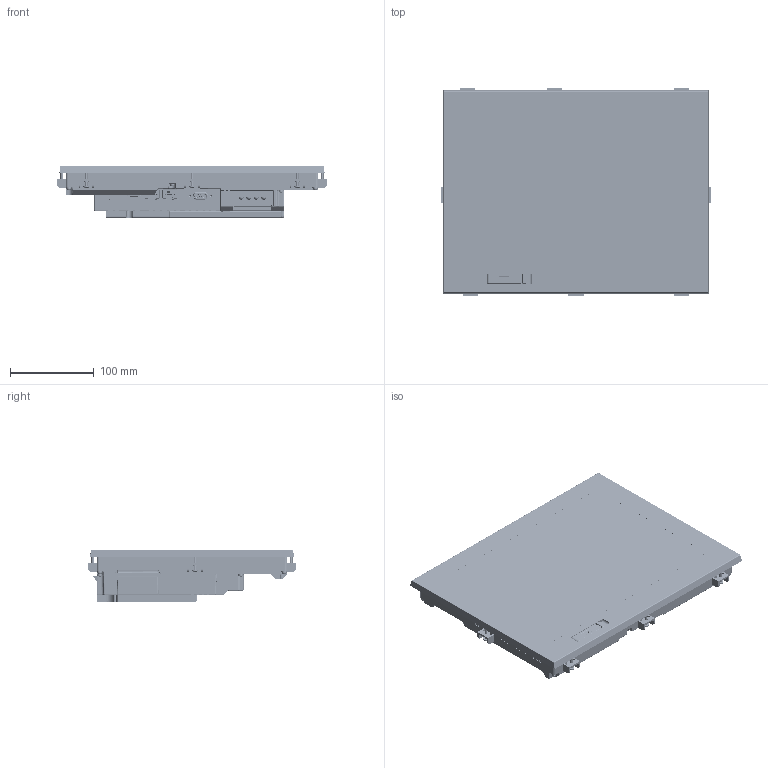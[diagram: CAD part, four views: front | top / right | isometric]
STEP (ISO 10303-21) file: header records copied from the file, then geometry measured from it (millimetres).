
FILE_DESCRIPTION((''),'2;1');
FILE_NAME('GT3712W_ASM_6_ASM','2025-04-23T09:35:00',('TQ65592'),(''),'CREO PARAMETRIC BY PTC INC, 2022281','CREO PARAMETRIC BY PTC INC, 2022281','');
FILE_SCHEMA(('CONFIG_CONTROL_DESIGN'));
Products named in the file (30): GT3712W_1_2; COVER_1_1; COVER_2_1; COVER_3_2; COVER_4_1; TORITUKE_1-1_1_1; TORITUKE_1-1_1_2; TORITUKE_1-1_1_ASM; TORITUKE_1-2_1_1; TORITUKE_1-2_1_2; TORITUKE_1-2_1_ASM; TORITUKE_1-3_1_1; TORITUKE_1-3_1_2; TORITUKE_1-3_1_ASM; TORITUKE_1-4_1_1; TORITUKE_1-4_1_2; TORITUKE_1-4_1_ASM; TORITUKE_1-5_1_1; TORITUKE_1-5_1_2; TORITUKE_1-5_1_ASM; TORITUKE_1-6_1_1; TORITUKE_1-6_1_2; TORITUKE_1-6_1_ASM; TORITUKE_1-7_1_1; TORITUKE_1-7_1_2; TORITUKE_1-7_1_ASM; TORITUKE_1-8_1_1; TORITUKE_1-8_1_2; TORITUKE_1-8_1_ASM; GT3712W_ASM_6_ASM
Assembly tree (29 placements, depth 3):
  GT3712W_ASM_6_ASM
    GT3712W_1_2
    COVER_1_1
    COVER_2_1
    COVER_3_2
    COVER_4_1
    TORITUKE_1-1_1_ASM
      TORITUKE_1-1_1_1
      TORITUKE_1-1_1_2
    TORITUKE_1-2_1_ASM
      TORITUKE_1-2_1_1
      TORITUKE_1-2_1_2
    TORITUKE_1-3_1_ASM
      TORITUKE_1-3_1_1
      TORITUKE_1-3_1_2
    TORITUKE_1-4_1_ASM
      TORITUKE_1-4_1_1
      TORITUKE_1-4_1_2
    TORITUKE_1-5_1_ASM
      TORITUKE_1-5_1_1
      TORITUKE_1-5_1_2
    TORITUKE_1-6_1_ASM
      TORITUKE_1-6_1_1
      TORITUKE_1-6_1_2
    TORITUKE_1-7_1_ASM
      TORITUKE_1-7_1_1
      TORITUKE_1-7_1_2
    TORITUKE_1-8_1_ASM
      TORITUKE_1-8_1_1
      TORITUKE_1-8_1_2
Bounding box: 321.2 x 247.2 x 63 mm (x, y, z)
Volume: 2974614.8 mm3; surface area: 299107.7 mm2
Topology: 21 solids, 23 shells, 10828 faces, 29749 edges, 19308 vertices
Faces by surface type: plane 6468, cylinder 3156, extrusion 321, bspline 315, torus 267, cone 151, sphere 150
Entity records: 369014 total; most frequent: CARTESIAN_POINT 90964, ORIENTED_EDGE 59148, DIRECTION 56115, EDGE_CURVE 29574, VECTOR 20971, LINE 20650, VERTEX_POINT 19304, AXIS2_PLACEMENT_3D 17572
